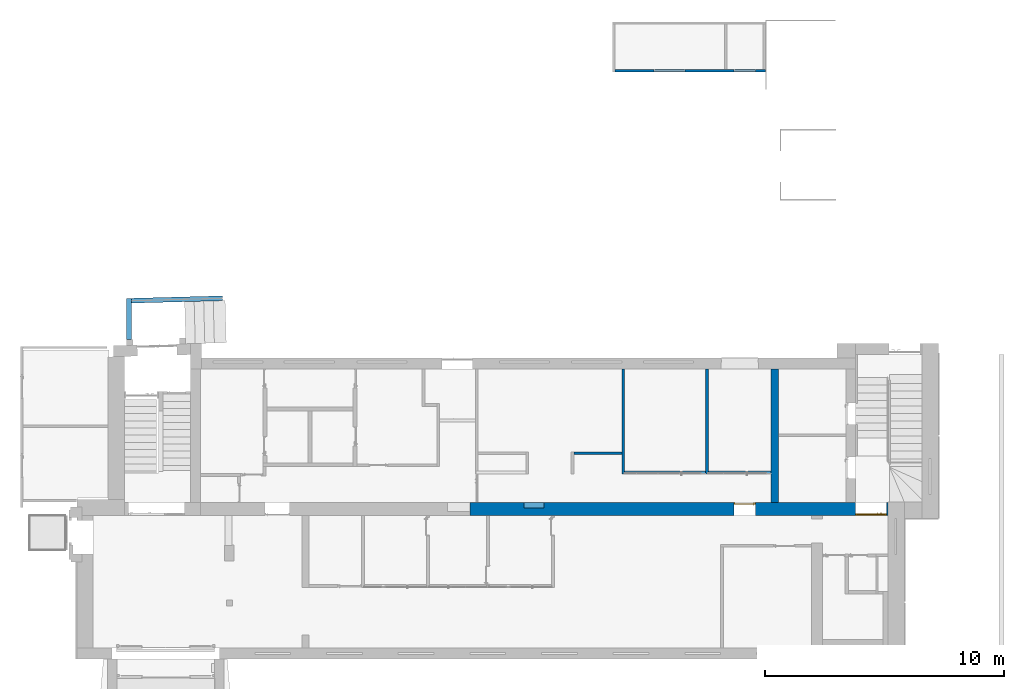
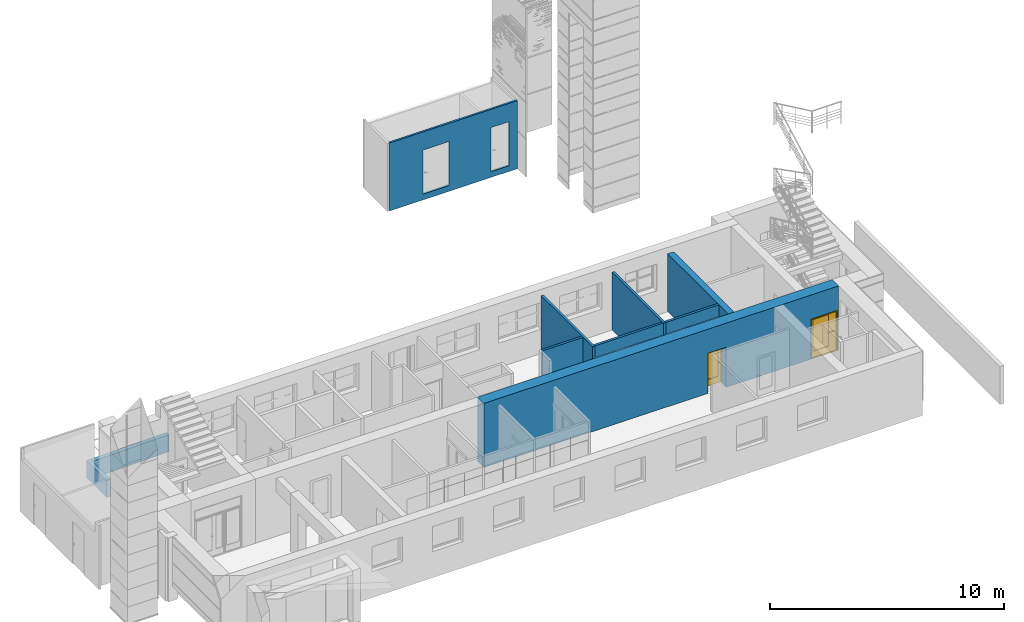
# One storey, part 26 of 49: 10 walls, 2 doors, 5 openings.
"""IFC2X3 building model written with IfcOpenShell, lengths in millimetres."""

from ifc_helpers import new_model, entity, si_unit, converted_unit, derived_unit, direction, frame, frame_2d, origin, place, context, subcontext, project, spatial, polyline, rectangle, outline, extrude, faceted_brep, source, transform, mapped, material, material_list, layer, layer_set, layer_usage, type_object, type_shapes, element, fill, save


model = new_model("IFC2X3")

# Units and contexts
model_context = context("Model", 3, precision=0.01, world=origin(), true_north=direction((6.12303176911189e-17, 1.0)))
body_context = subcontext(model_context, "Body", "Model", "MODEL_VIEW")
ifc_project = project(units=[si_unit("LENGTHUNIT", "METRE", prefix="MILLI"), si_unit("AREAUNIT", "SQUARE_METRE"), si_unit("VOLUMEUNIT", "CUBIC_METRE"), converted_unit("PLANEANGLEUNIT", "DEGREE", entity("IfcRatioMeasure", 0.0174532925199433), si_unit("PLANEANGLEUNIT", "RADIAN"), dimensions=[0, 0, 0, 0, 0, 0, 0]), si_unit("MASSUNIT", "GRAM", prefix="KILO"), derived_unit("MASSDENSITYUNIT", [(si_unit("MASSUNIT", "GRAM", prefix="KILO"), 1), (si_unit("LENGTHUNIT", "METRE"), -3)]), si_unit("TIMEUNIT", "SECOND"), si_unit("FREQUENCYUNIT", "HERTZ"), si_unit("THERMODYNAMICTEMPERATUREUNIT", "DEGREE_CELSIUS"), derived_unit("THERMALTRANSMITTANCEUNIT", [(si_unit("MASSUNIT", "GRAM", prefix="KILO"), 1), (si_unit("THERMODYNAMICTEMPERATUREUNIT", "KELVIN"), -1), (si_unit("TIMEUNIT", "SECOND"), -3)]), derived_unit("VOLUMETRICFLOWRATEUNIT", [(si_unit("LENGTHUNIT", "METRE"), 3), (si_unit("TIMEUNIT", "SECOND"), -1)]), si_unit("ELECTRICCURRENTUNIT", "AMPERE"), si_unit("ELECTRICVOLTAGEUNIT", "VOLT"), si_unit("POWERUNIT", "WATT"), si_unit("FORCEUNIT", "NEWTON", prefix="KILO"), si_unit("ILLUMINANCEUNIT", "LUX"), si_unit("LUMINOUSFLUXUNIT", "LUMEN"), si_unit("LUMINOUSINTENSITYUNIT", "CANDELA"), derived_unit("USERDEFINED", [(si_unit("MASSUNIT", "GRAM", prefix="KILO"), -1), (si_unit("LENGTHUNIT", "METRE"), -2), (si_unit("TIMEUNIT", "SECOND"), 3), (si_unit("LUMINOUSFLUXUNIT", "LUMEN"), 1)]), derived_unit("LINEARVELOCITYUNIT", [(si_unit("LENGTHUNIT", "METRE"), 1), (si_unit("TIMEUNIT", "SECOND"), -1)]), si_unit("PRESSUREUNIT", "PASCAL"), derived_unit("USERDEFINED", [(si_unit("LENGTHUNIT", "METRE"), -2), (si_unit("MASSUNIT", "GRAM", prefix="KILO"), 1), (si_unit("TIMEUNIT", "SECOND"), -2)])], contexts=[model_context])

# Site, building, storey
site_placement = place(None, frame((-151.875543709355, 2715.0, 0.0)))
site = spatial("IfcSite", under=ifc_project, at=site_placement, Name="Surface", CompositionType="ELEMENT")
building_placement = place(site_placement, origin())
building = spatial("IfcBuilding", under=site, at=building_placement, CompositionType="ELEMENT")
storey_placement = place(building_placement, origin())
storey = spatial("IfcBuildingStorey", under=building, at=storey_placement, Name="1 korrus", CompositionType="ELEMENT", Elevation=3.0969999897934e-10)

# Wall, openings, doors
ifc_material_1 = material(Name="__Kips GN13_tava")
ifc_layer_1 = layer(ifc_material_1, 20.0)
ifc_material_2 = material(Name="Masonry - Brick")
ifc_layer_2 = layer(ifc_material_2, 510.0)
ifc_layer_3 = layer(ifc_material_1, 20.0)
ifc_layer_set_1 = layer_set([ifc_layer_1, ifc_layer_2, ifc_layer_3], Name="Basic Wall:SS-1")
ifc_layer_usage_1 = layer_usage(ifc_layer_set_1, "AXIS2", "POSITIVE", -275.0)
wall_type_1 = type_object("IfcWallType", Name="Basic Wall:SS-1", PredefinedType="STANDARD", material=ifc_layer_set_1)
wall_1_placement = place(storey_placement, frame((16230.77154162, 6285.0, 0.0)))
wall_1 = element("IfcWallStandardCase", 1, at=wall_1_placement, inside=storey, type_object=wall_type_1, material=ifc_layer_usage_1, Name="SEIN - 002", ObjectType="Basic Wall:SS-1", context=body_context, shape_type="SweptSolid", body=[
    extrude(rectangle(XDim=17510.84472658, YDim=550.000000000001, at=frame_2d((8755.42236329, 0.0), x_axis=(-1.0, 0.0))), origin(), (0.0, 0.0, 1.0), 3350.0),
])
opening_1_placement = place(wall_1_placement, origin())
element("IfcOpeningElement", 2, at=opening_1_placement, cuts=wall_1, Name="SEIN - 002", ObjectType="Opening", context=body_context, shape_type="SweptSolid", body=[
    extrude(rectangle(XDim=2467.39355468, YDim=845.432757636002, at=frame_2d((-1.13686837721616e-13, 0.0), x_axis=(1.0, 0.0))), frame((2682.935476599, 36.3462829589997, 1523.69677734), z_axis=(0.0, 1.0, 0.0), x_axis=(0.0, 0.0, 1.0)), (0.0, 0.0, 1.0), 788.653717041),
])
opening_2_placement = place(wall_1_placement, frame((11957.9308578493, 275.0, 0.0)))
opening_2 = element("IfcOpeningElement", 3, at=opening_2_placement, cuts=wall_1, Name="Ühepoolsed:SU-02.:1", ObjectType="Opening", context=body_context, shape_type="SweptSolid", body=[
    extrude(rectangle(XDim=2099.99999999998, YDim=900.0, at=frame_2d((1049.99999999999, 450.0), x_axis=(1.0, 0.0))), frame((0.0, 0.0, 0.0), z_axis=(0.0, -1.0, 0.0), x_axis=(0.0, 0.0, 1.0)), (0.0, 0.0, 1.0), 550.0),
])
opening_3_placement = place(wall_1_placement, frame((16141.84472658, -275.0, 0.0)))
opening_3 = element("IfcOpeningElement", 4, at=opening_3_placement, cuts=wall_1, Name="Kahepoolsed:SU-11:1", ObjectType="Opening", context=body_context, shape_type="SweptSolid", body=[
    extrude(rectangle(XDim=2099.99999999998, YDim=1300.0, at=frame_2d((1049.99999999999, 650.0), x_axis=(1.0, 0.0))), frame((0.0, 0.0, 0.0), z_axis=(0.0, 1.0, 0.0), x_axis=(0.0, 0.0, 1.0)), (0.0, 0.0, 1.0), 550.0),
])
ifc_material_3 = material(Name="_Alumiiniumprofiil - must")
ifc_material_4 = material(Name="__Uks_hele tamm")
ifc_material_5 = material(Name="EP Tavallinen lasi")
ifc_material_list_1 = material_list([ifc_material_3, ifc_material_4, ifc_material_5])
ifc_material_list_2 = material_list([ifc_material_3, ifc_material_4, ifc_material_5])
door_style_1 = type_object("IfcDoorStyle", Name="SU-11", ConstructionType="NOTDEFINED", OperationType="FOLDING_TO_RIGHT", ParameterTakesPrecedence=False, Sizeable=False, material=ifc_material_list_2)
shared_shape_1 = source(origin(), body_context, "Body", "Brep", [
    faceted_brep([(912.5, 0.0, 1100.0), (817.5, 0.0, 1100.0), (817.5, -5.0, 1100.0), (937.5, -5.0, 1100.0), (937.5, 38.0, 1100.0), (912.5, 38.0, 1100.0), (912.5, 0.0, 1075.0), (912.5, 38.0, 1075.0), (937.5, 38.0, 1075.0), (937.5, -5.0, 1075.0), (817.5, -5.0, 1075.0), (817.5, 0.0, 1075.0)], [[[0, 1, 2, 3, 4, 5]], [[6, 7, 8, 9, 10, 11]], [[5, 7, 6, 0]], [[4, 8, 7, 5]], [[3, 9, 8, 4]], [[2, 10, 9, 3]], [[1, 11, 10, 2]], [[0, 6, 11, 1]]]),
    faceted_brep([(900.0, 38.0, 1125.0), (950.0, 38.0, 1125.0), (950.0, 40.0, 1125.0), (900.0, 40.0, 1125.0), (900.0, 38.0, 1005.0), (900.0, 40.0, 1005.0), (950.0, 40.0, 1005.0), (950.0, 38.0, 1005.0)], [[[0, 1, 2, 3]], [[4, 5, 6, 7]], [[3, 5, 4, 0]], [[2, 6, 5, 3]], [[1, 7, 6, 2]], [[0, 4, 7, 1]]]),
    faceted_brep([(912.499999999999, 130.0, 1100.0), (912.499999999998, 92.0, 1100.0), (937.499999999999, 92.0, 1100.0), (937.499999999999, 135.0, 1100.0), (817.499999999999, 135.0, 1100.0), (817.499999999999, 130.0, 1100.0), (912.499999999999, 130.0, 1075.0), (817.499999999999, 130.0, 1075.0), (817.499999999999, 135.0, 1075.0), (937.499999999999, 135.0, 1075.0), (937.499999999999, 92.0, 1075.0), (912.499999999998, 92.0, 1075.0)], [[[0, 1, 2, 3, 4, 5]], [[6, 7, 8, 9, 10, 11]], [[1, 0, 6, 11]], [[2, 1, 11, 10]], [[3, 2, 10, 9]], [[4, 3, 9, 8]], [[5, 4, 8, 7]], [[0, 5, 7, 6]]]),
    faceted_brep([(900.0, 92.0, 1125.0), (900.0, 90.0, 1125.0), (950.0, 90.0, 1125.0), (950.0, 92.0, 1125.0), (900.0, 92.0, 1005.0), (950.0, 92.0, 1005.0), (950.0, 90.0, 1005.0), (900.0, 90.0, 1005.0)], [[[0, 1, 2, 3]], [[4, 5, 6, 7]], [[1, 0, 4, 7]], [[2, 1, 7, 6]], [[3, 2, 6, 5]], [[0, 3, 5, 4]]]),
    faceted_brep([(1087.5, 0.0, 1100.0), (1087.5, 38.0, 1100.0), (1062.5, 38.0, 1100.0), (1062.5, -5.0, 1100.0), (1182.5, -5.0, 1100.0), (1182.5, 0.0, 1100.0), (1087.5, 0.0, 1075.0), (1182.5, 0.0, 1075.0), (1182.5, -5.0, 1075.0), (1062.5, -5.0, 1075.0), (1062.5, 38.0, 1075.0), (1087.5, 38.0, 1075.0)], [[[0, 1, 2, 3, 4, 5]], [[6, 7, 8, 9, 10, 11]], [[1, 0, 6, 11]], [[2, 1, 11, 10]], [[3, 2, 10, 9]], [[4, 3, 9, 8]], [[5, 4, 8, 7]], [[0, 5, 7, 6]]]),
    faceted_brep([(1100.0, 38.0, 1125.0), (1100.0, 40.0, 1125.0), (1050.0, 40.0, 1125.0), (1050.0, 38.0, 1125.0), (1100.0, 38.0, 1005.0), (1050.0, 38.0, 1005.0), (1050.0, 40.0, 1005.0), (1100.0, 40.0, 1005.0)], [[[0, 1, 2, 3]], [[4, 5, 6, 7]], [[1, 0, 4, 7]], [[2, 1, 7, 6]], [[3, 2, 6, 5]], [[0, 3, 5, 4]]]),
    faceted_brep([(1087.5, 130.0, 1100.0), (1182.5, 130.0, 1100.0), (1182.5, 135.0, 1100.0), (1062.5, 135.0, 1100.0), (1062.5, 92.0, 1100.0), (1087.5, 92.0, 1100.0), (1087.5, 130.0, 1075.0), (1087.5, 92.0, 1075.0), (1062.5, 92.0, 1075.0), (1062.5, 135.0, 1075.0), (1182.5, 135.0, 1075.0), (1182.5, 130.0, 1075.0)], [[[0, 1, 2, 3, 4, 5]], [[6, 7, 8, 9, 10, 11]], [[5, 7, 6, 0]], [[4, 8, 7, 5]], [[3, 9, 8, 4]], [[2, 10, 9, 3]], [[1, 11, 10, 2]], [[0, 6, 11, 1]]]),
    faceted_brep([(1100.0, 92.0, 1125.0), (1050.0, 92.0, 1125.0), (1050.0, 90.0, 1125.0), (1100.0, 90.0, 1125.0), (1100.0, 92.0, 1005.0), (1100.0, 90.0, 1005.0), (1050.0, 90.0, 1005.0), (1050.0, 92.0, 1005.0)], [[[0, 1, 2, 3]], [[4, 5, 6, 7]], [[3, 5, 4, 0]], [[2, 6, 5, 3]], [[1, 7, 6, 2]], [[0, 4, 7, 1]]]),
    faceted_brep([(1260.0, 0.0, 30.0), (1260.0, 0.0, 0.0), (1260.0, 40.0, 0.0), (1260.0, 40.0, 20.0), (1260.0, 40.0, 30.0), (40.0, 0.0, 30.0), (40.0, 40.0, 30.0), (40.0, 40.0, 20.0), (40.0, 40.0, 0.0), (40.0, 0.0, 0.0), (25.0, 40.0, 0.0), (25.0, 90.0, 0.0), (1275.0, 90.0, 0.0), (1275.0, 40.0, 0.0), (1275.0, 90.0, 20.0), (1275.0, 40.0, 20.0), (25.0, 90.0, 20.0), (25.0, 40.0, 20.0)], [[[0, 1, 2, 3, 4]], [[5, 6, 7, 8, 9]], [[1, 0, 5, 9]], [[2, 1, 9, 8, 10, 11, 12, 13]], [[6, 4, 3, 7]], [[0, 4, 6, 5]], [[14, 15, 13, 12]], [[16, 11, 10, 17]], [[15, 14, 16, 17, 7, 3]], [[13, 15, 3, 2]], [[14, 12, 11, 16]], [[17, 10, 8, 7]]]),
    faceted_brep([(1300.0, 0.0, 0.0), (1260.0, 0.0, 0.0), (1260.0, 40.0, 0.0), (1275.0, 40.0, 0.0), (1275.0, 90.0, 0.0), (1300.0, 90.0, 0.0), (1300.0, 0.0, 2100.0), (0.0, 0.0, 2100.0), (0.0, 0.0, 0.0), (40.0, 0.0, 0.0), (40.0, 0.0, 2060.0), (1260.0, 0.0, 2060.0), (1260.0, 40.0, 2060.0), (40.0, 40.0, 2060.0), (40.0, 40.0, 0.0), (25.0, 40.0, 0.0), (25.0, 40.0, 2075.0), (1275.0, 40.0, 2075.0), (1275.0, 90.0, 2075.0), (25.0, 90.0, 2075.0), (25.0, 90.0, 0.0), (0.0, 90.0, 0.0), (0.0, 90.0, 2100.0), (1300.0, 90.0, 2100.0)], [[[0, 1, 2, 3, 4, 5]], [[1, 0, 6, 7, 8, 9, 10, 11]], [[2, 1, 11, 12]], [[3, 2, 12, 13, 14, 15, 16, 17]], [[4, 3, 17, 18]], [[5, 4, 18, 19, 20, 21, 22, 23]], [[0, 5, 23, 6]], [[8, 7, 22, 21]], [[9, 8, 21, 20, 15, 14]], [[10, 9, 14, 13]], [[16, 15, 20, 19]], [[11, 10, 13, 12]], [[17, 16, 19, 18]], [[7, 6, 23, 22]]]),
    faceted_brep([(1149.0, 90.0, 2000.0), (1149.0, 40.0, 2000.0), (1149.0, 40.0, 1990.0), (1149.0, 90.0, 1990.0), (1150.0, 40.0, 1990.0), (1150.0, 90.0, 1990.0), (1150.0, 40.0, 2000.0), (1150.0, 90.0, 2000.0), (1275.0, 40.0, 2075.0), (1000.0, 40.0, 2075.0), (1000.0, 40.0, 20.0), (1275.0, 40.0, 20.0), (1275.0, 90.0, 2075.0), (1275.0, 90.0, 20.0), (1000.0, 90.0, 20.0), (1000.0, 90.0, 2075.0)], [[[0, 1, 2, 3]], [[3, 2, 4, 5]], [[5, 4, 6, 7]], [[1, 0, 7, 6]], [[2, 1, 6, 4], [8, 9, 10, 11]], [[0, 3, 5, 7], [12, 13, 14, 15]], [[9, 8, 12, 15]], [[10, 9, 15, 14]], [[11, 10, 14, 13]], [[8, 11, 13, 12]]], outer=[[True], [True], [True], [True], [False, True], [False, True], [True], [True], [True], [True]]),
    faceted_brep([(125.0, 55.0, 350.0), (900.0, 55.0, 350.0), (900.0, 55.0, 2000.0), (125.0, 55.0, 2000.0), (125.0, 75.0, 350.0), (125.0, 75.0, 2000.0), (900.0, 75.0, 2000.0), (900.0, 75.0, 350.0)], [[[0, 1, 2, 3]], [[4, 5, 6, 7]], [[1, 0, 4, 7]], [[2, 1, 7, 6]], [[3, 2, 6, 5]], [[0, 3, 5, 4]]]),
    faceted_brep([(1000.0, 40.0, 2075.0), (25.0, 40.0, 2075.0), (25.0, 40.0, 20.0), (1000.0, 40.0, 20.0), (125.0, 40.0, 350.0), (125.0, 40.0, 2000.0), (900.0, 40.0, 2000.0), (900.0, 40.0, 350.0), (1000.0, 90.0, 2075.0), (1000.0, 90.0, 20.0), (25.0, 90.0, 20.0), (25.0, 90.0, 2075.0), (125.0, 90.0, 2000.0), (125.0, 90.0, 350.0), (900.0, 90.0, 350.0), (900.0, 90.0, 2000.0)], [[[0, 1, 2, 3], [4, 5, 6, 7]], [[8, 9, 10, 11], [12, 13, 14, 15]], [[1, 0, 8, 11]], [[2, 1, 11, 10]], [[3, 2, 10, 9]], [[0, 3, 9, 8]], [[12, 5, 4, 13]], [[13, 4, 7, 14]], [[14, 7, 6, 15]], [[5, 12, 15, 6]]]),
])
type_shapes(door_style_1, [shared_shape_1])
door_1_placement = place(opening_3_placement, origin())
door_1 = element("IfcDoor", 5, at=door_1_placement, inside=storey, type_object=door_style_1, material=ifc_material_list_1, Name="Kahepoolsed:SU-11", ObjectType="SU-11", OverallHeight=2099.99999999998, OverallWidth=1300.0, context=body_context, shape_type="MappedRepresentation", body=[
    mapped(shared_shape_1, transform((0.0, 0.0, 0.0), scale=1.0)),
])
fill(opening_3, door_1)
ifc_material_6 = material(Name="Glass")
ifc_material_list_3 = material_list([ifc_material_3, ifc_material_4, ifc_material_6])
ifc_material_list_4 = material_list([ifc_material_3, ifc_material_4, ifc_material_6])
door_style_2 = type_object("IfcDoorStyle", Name="SU-02.", ConstructionType="NOTDEFINED", OperationType="FOLDING_TO_LEFT", ParameterTakesPrecedence=False, Sizeable=False, material=ifc_material_list_4)
shared_shape_2 = source(origin(), body_context, "Body", "Brep", [
    faceted_brep([(100.0, 0.0, 1112.5), (100.0, 38.0, 1112.5), (75.0, 38.0, 1112.5), (75.0, -5.0, 1112.5), (195.0, -5.0, 1112.5), (195.0, 0.0, 1112.5), (100.0, 0.0, 1087.5), (195.0, 0.0, 1087.5), (195.0, -5.0, 1087.5), (75.0, -5.0, 1087.5), (75.0, 38.0, 1087.5), (100.0, 38.0, 1087.5)], [[[0, 1, 2, 3, 4, 5]], [[6, 7, 8, 9, 10, 11]], [[1, 0, 6, 11]], [[2, 1, 11, 10]], [[3, 2, 10, 9]], [[4, 3, 9, 8]], [[5, 4, 8, 7]], [[0, 5, 7, 6]]]),
    faceted_brep([(112.500000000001, 38.0, 1137.5), (112.500000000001, 40.0, 1137.5), (62.5000000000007, 40.0, 1137.5), (62.5000000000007, 38.0, 1137.5), (112.500000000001, 38.0, 1017.5), (62.5000000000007, 38.0, 1017.5), (62.5000000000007, 40.0, 1017.5), (112.500000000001, 40.0, 1017.5)], [[[0, 1, 2, 3]], [[4, 5, 6, 7]], [[1, 0, 4, 7]], [[2, 1, 7, 6]], [[3, 2, 6, 5]], [[0, 3, 5, 4]]]),
    faceted_brep([(100.0, 130.0, 1112.5), (195.0, 130.0, 1112.5), (195.0, 135.0, 1112.5), (75.0, 135.0, 1112.5), (75.0, 92.0, 1112.5), (100.0, 92.0, 1112.5), (100.0, 130.0, 1087.5), (100.0, 92.0, 1087.5), (75.0, 92.0, 1087.5), (75.0, 135.0, 1087.5), (195.0, 135.0, 1087.5), (195.0, 130.0, 1087.5)], [[[0, 1, 2, 3, 4, 5]], [[6, 7, 8, 9, 10, 11]], [[5, 7, 6, 0]], [[4, 8, 7, 5]], [[3, 9, 8, 4]], [[2, 10, 9, 3]], [[1, 11, 10, 2]], [[0, 6, 11, 1]]]),
    faceted_brep([(112.500000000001, 92.0, 1137.5), (62.5000000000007, 92.0, 1137.5), (62.5000000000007, 90.0, 1137.5), (112.500000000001, 90.0, 1137.5), (112.500000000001, 92.0, 1017.5), (112.500000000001, 90.0, 1017.5), (62.5000000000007, 90.0, 1017.5), (62.5000000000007, 92.0, 1017.5)], [[[0, 1, 2, 3]], [[4, 5, 6, 7]], [[3, 5, 4, 0]], [[2, 6, 5, 3]], [[1, 7, 6, 2]], [[0, 4, 7, 1]]]),
    faceted_brep([(900.0, 0.0, 0.0), (860.0, 0.0, 0.0), (860.0, 40.0, 0.0), (875.0, 40.0, 0.0), (875.0, 90.0, 0.0), (900.0, 90.0, 0.0), (900.0, 0.0, 2100.0), (0.0, 0.0, 2100.0), (0.0, 0.0, 0.0), (40.0, 0.0, 0.0), (40.0, 0.0, 2060.0), (860.0, 0.0, 2060.0), (860.0, 40.0, 2060.0), (40.0, 40.0, 2060.0), (40.0, 40.0, 0.0), (25.0, 40.0, 0.0), (25.0, 40.0, 2075.0), (875.0, 40.0, 2075.0), (875.0, 90.0, 2075.0), (25.0, 90.0, 2075.0), (25.0, 90.0, 0.0), (0.0, 90.0, 0.0), (0.0, 90.0, 2100.0), (900.0, 90.0, 2100.0)], [[[0, 1, 2, 3, 4, 5]], [[1, 0, 6, 7, 8, 9, 10, 11]], [[2, 1, 11, 12]], [[3, 2, 12, 13, 14, 15, 16, 17]], [[4, 3, 17, 18]], [[5, 4, 18, 19, 20, 21, 22, 23]], [[0, 5, 23, 6]], [[8, 7, 22, 21]], [[9, 8, 21, 20, 15, 14]], [[10, 9, 14, 13]], [[16, 15, 20, 19]], [[11, 10, 13, 12]], [[17, 16, 19, 18]], [[7, 6, 23, 22]]]),
    faceted_brep([(760.0, 55.0, 350.0), (760.0, 55.0, 1960.0), (140.0, 55.0, 1960.0), (140.0, 55.0, 350.0), (760.0, 75.0, 350.0), (140.0, 75.0, 350.0), (140.0, 75.0, 1960.0), (760.0, 75.0, 1960.0)], [[[0, 1, 2, 3]], [[4, 5, 6, 7]], [[1, 0, 4, 7]], [[2, 1, 7, 6]], [[3, 2, 6, 5]], [[0, 3, 5, 4]]]),
    faceted_brep([(875.0, 40.0, 20.0), (875.0, 40.0, 2075.0), (25.0, 40.0, 2075.0), (25.0, 40.0, 20.0), (140.0, 40.0, 350.0), (140.0, 40.0, 1960.0), (760.0, 40.0, 1960.0), (760.0, 40.0, 350.0), (875.0, 90.0, 20.0), (25.0, 90.0, 20.0), (25.0, 90.0, 2075.0), (875.0, 90.0, 2075.0), (140.0, 90.0, 1960.0), (140.0, 90.0, 350.0), (760.0, 90.0, 350.0), (760.0, 90.0, 1960.0)], [[[0, 1, 2, 3], [4, 5, 6, 7]], [[8, 9, 10, 11], [12, 13, 14, 15]], [[1, 0, 8, 11]], [[2, 1, 11, 10]], [[3, 2, 10, 9]], [[0, 3, 9, 8]], [[12, 5, 4, 13]], [[13, 4, 7, 14]], [[14, 7, 6, 15]], [[5, 12, 15, 6]]]),
])
type_shapes(door_style_2, [shared_shape_2])
door_2_placement = place(opening_2_placement, frame((0.0, 0.0, 0.0), z_axis=(0.0, 0.0, 1.0), x_axis=(-1.0, 0.0, 0.0)))
door_2 = element("IfcDoor", 6, at=door_2_placement, inside=storey, type_object=door_style_2, material=ifc_material_list_3, Name="Ühepoolsed:SU-02.", ObjectType="SU-02.", OverallHeight=2099.99999999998, OverallWidth=899.999999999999, context=body_context, shape_type="MappedRepresentation", body=[
    mapped(shared_shape_2, transform((0.0, 0.0, 0.0), scale=1.0)),
])
fill(opening_2, door_2)

# Walls
ifc_material_7 = material(Name="__Hall krohv")
ifc_layer_4 = layer(ifc_material_7, 10.0)
ifc_material_8 = material(Name="Tellis")
ifc_layer_5 = layer(ifc_material_8, 280.0)
ifc_layer_6 = layer(ifc_material_7, 10.0)
ifc_layer_set_2 = layer_set([ifc_layer_4, ifc_layer_5, ifc_layer_6], Name="Basic Wall:SS-01_ol.olev tellissein300")
ifc_layer_usage_2 = layer_usage(ifc_layer_set_2, "AXIS2", "NEGATIVE", 150.0)
wall_type_2 = type_object("IfcWallType", Name="Basic Wall:SS-01_ol.olev tellissein300", PredefinedType="STANDARD", material=ifc_layer_set_2)
wall_2_placement = place(storey_placement, frame((28996.0994792, 6560.0, 0.0), z_axis=(0.0, 0.0, 1.0), x_axis=(0.0, 1.0, 0.0)))
element("IfcWallStandardCase", 7, at=wall_2_placement, inside=storey, type_object=wall_type_2, material=ifc_layer_usage_2, Name="SEIN - 002", ObjectType="Basic Wall:SS-01_ol.olev tellissein300", context=body_context, shape_type="SweptSolid", body=[
    extrude(rectangle(XDim=5590.0, YDim=300.000000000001, at=frame_2d((2795.0, 0.0), x_axis=(-1.0, 0.0))), origin(), (0.0, 0.0, 1.0), 3020.0),
])
ifc_layer_7 = layer(ifc_material_1, 12.5)
ifc_layer_8 = layer(ifc_material_1, 12.5)
ifc_material_9 = material(Name="__Soojustus EPS")
ifc_layer_9 = layer(ifc_material_9, 66.0)
ifc_layer_10 = layer(ifc_material_1, 12.5)
ifc_layer_11 = layer(ifc_material_1, 12.5)
ifc_layer_set_3 = layer_set([ifc_layer_7, ifc_layer_8, ifc_layer_9, ifc_layer_10, ifc_layer_11], Name="Basic Wall:SS-3_Kipssein tava ruumide vahel")
ifc_layer_usage_3 = layer_usage(ifc_layer_set_3, "AXIS2", "POSITIVE", -58.0)
wall_type_3 = type_object("IfcWallType", Name="Basic Wall:SS-3_Kipssein tava ruumide vahel", PredefinedType="STANDARD", material=ifc_layer_set_3)
wall_3_placement = place(storey_placement, frame((22657.5484515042, 7760.0, 0.0), z_axis=(0.0, 0.0, 1.0), x_axis=(0.0, 1.0, 0.0)))
element("IfcWallStandardCase", 8, at=wall_3_placement, inside=storey, type_object=wall_type_3, material=ifc_layer_usage_3, Name="Basic Wall:SS-3_Kipssein tava ruumide vahel", ObjectType="Basic Wall:SS-3_Kipssein tava ruumide vahel", context=body_context, shape_type="SweptSolid", body=[
    extrude(rectangle(XDim=4390.00000000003, YDim=116.0, at=frame_2d((2195.00000000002, -6.75015598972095e-13), x_axis=(-1.0, 0.0))), origin(), (0.0, 0.0, 1.0), 3020.0),
])
ifc_layer_usage_4 = layer_usage(ifc_layer_set_3, "AXIS2", "NEGATIVE", 58.0)
wall_4_placement = place(storey_placement, frame((22715.5484515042, 7818.0, 2400.0)))
element("IfcWallStandardCase", 9, at=wall_4_placement, inside=storey, type_object=wall_type_3, material=ifc_layer_usage_4, Name="Basic Wall:SS-3_Kipssein tava ruumide vahel", ObjectType="Basic Wall:SS-3_Kipssein tava ruumide vahel", context=body_context, shape_type="SweptSolid", body=[
    extrude(rectangle(XDim=3389.55102769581, YDim=116.0, at=frame_2d((1694.7755138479, -3.90798504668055e-14), x_axis=(-1.0, 0.0))), origin(), (0.0, 0.0, 1.0), 620.0),
])
ifc_layer_usage_5 = layer_usage(ifc_layer_set_3, "AXIS2", "POSITIVE", -58.0)
wall_5_placement = place(storey_placement, frame((26163.0994792, 7760.0, 0.0), z_axis=(0.0, 0.0, 1.0), x_axis=(0.0, 1.0, 0.0)))
element("IfcWallStandardCase", 10, at=wall_5_placement, inside=storey, type_object=wall_type_3, material=ifc_layer_usage_5, Name="Basic Wall:SS-3_Kipssein tava ruumide vahel", ObjectType="Basic Wall:SS-3_Kipssein tava ruumide vahel", context=body_context, shape_type="SweptSolid", body=[
    extrude(rectangle(XDim=4389.99999999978, YDim=116.0, at=frame_2d((2194.99999999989, 0.0), x_axis=(-1.0, 0.0))), origin(), (0.0, 0.0, 1.0), 3020.0),
])
ifc_layer_usage_6 = layer_usage(ifc_layer_set_3, "AXIS2", "NEGATIVE", 58.0)
wall_6_placement = place(storey_placement, frame((26218.2300720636, 7818.0, 2400.0)))
element("IfcWallStandardCase", 11, at=wall_6_placement, inside=storey, type_object=wall_type_3, material=ifc_layer_usage_6, Name="Basic Wall:SS-3_Kipssein tava ruumide vahel", ObjectType="Basic Wall:SS-3_Kipssein tava ruumide vahel", context=body_context, shape_type="SweptSolid", body=[
    extrude(rectangle(XDim=2626.86940713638, YDim=116.0, at=frame_2d((1313.43470356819, 1.35003119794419e-13), x_axis=(-1.0, 0.0))), origin(), (0.0, 0.0, 1.0), 620.0),
])
ifc_layer_usage_7 = layer_usage(ifc_layer_set_3, "AXIS2", "POSITIVE", -58.0)
wall_7_placement = place(storey_placement, frame((22599.5484515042, 8618.0, 0.0), z_axis=(0.0, 0.0, 1.0), x_axis=(-1.0, 0.0, 0.0)))
element("IfcWallStandardCase", 12, at=wall_7_placement, inside=storey, type_object=wall_type_3, material=ifc_layer_usage_7, Name="Basic Wall:SS-3_Kipssein tava ruumide vahel", ObjectType="Basic Wall:SS-3_Kipssein tava ruumide vahel", context=body_context, shape_type="SweptSolid", body=[
    extrude(rectangle(XDim=2005.99999999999, YDim=116.0, at=frame_2d((1002.99999999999, 2.87769807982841e-13), x_axis=(-1.0, 0.0))), origin(), (0.0, 0.0, 1.0), 3020.0),
])
ifc_material_10 = material(Name="Betoon_uus konstr.")
ifc_layer_12 = layer(ifc_material_10, 200.0)
ifc_layer_set_4 = layer_set([ifc_layer_12], Name="Basic Wall:Uus tugimüür 200mm")
ifc_layer_usage_8 = layer_usage(ifc_layer_set_4, "AXIS2", "NEGATIVE", 100.0)
wall_type_4 = type_object("IfcWallType", Name="Basic Wall:Uus tugimüür 200mm", PredefinedType="STANDARD", material=ifc_layer_set_4)
wall_8_placement = place(storey_placement, frame((1964.54956111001, 15107.1223683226, -1000.0), z_axis=(0.0, 0.0, 1.0), x_axis=(0.0, -1.0, 0.0)))
element("IfcWallStandardCase", 13, at=wall_8_placement, inside=storey, type_object=wall_type_4, material=ifc_layer_usage_8, Name="Basic Wall:Uus tugimüür 200mm", ObjectType="Basic Wall:Uus tugimüür 200mm", context=body_context, shape_type="SweptSolid", body=[
    extrude(rectangle(XDim=1726.5269437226, YDim=200.0, at=frame_2d((863.263471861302, 1.4210854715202e-14), x_axis=(-1.0, 0.0))), origin(), (0.0, 0.0, 1.0), 890.0),
])
ifc_layer_usage_9 = layer_usage(ifc_layer_set_4, "AXIS2", "NEGATIVE", 100.0)
wall_9_placement = place(storey_placement, frame((5880.47761591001, 15109.9638978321, -1000.0), z_axis=(0.0, 0.0, 1.0), x_axis=(-0.999638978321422, -0.0268684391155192, 0.0)))
element("IfcWallStandardCase", 14, at=wall_9_placement, inside=storey, type_object=wall_type_4, material=ifc_layer_usage_9, Name="Basic Wall:Uus tugimüür 200mm", ObjectType="Basic Wall:Uus tugimüür 200mm", context=body_context, shape_type="SweptSolid", body=[
    extrude(outline(polyline([(-39.0653858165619, -1526.37122192), (-38.7527999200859, -1526.37122192), (161.006844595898, -1526.37122192), (58.3695684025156, 2292.24367679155), (-141.558227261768, 2286.86998896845), (-39.0653858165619, -1526.37122192)])), frame((2289.84782793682, -19.9375053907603, 0.0), z_axis=(0.0, 0.0, 1.0), x_axis=(0.0268684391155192, 0.999638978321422, 0.0)), (0.0, 0.0, 1.0), 890.0),
])

# Wall, openings
ifc_material_11 = material(Name="External face timepruun h=1100mm")
ifc_layer_13 = layer(ifc_material_11, 1.0)
ifc_material_12 = material(Name="Core Mineral wool Mineral Wool h=1100mm")
ifc_layer_14 = layer(ifc_material_12, 98.0)
ifc_material_13 = material(Name="Internal face RAL 7035 h=1100mm")
ifc_layer_15 = layer(ifc_material_13, 1.0)
ifc_layer_set_5 = layer_set([ifc_layer_13, ifc_layer_14, ifc_layer_15], Name="Basic Wall:VS-3.1_SW kergpaneel 100mm")
ifc_layer_usage_10 = layer_usage(ifc_layer_set_5, "AXIS2", "POSITIVE", -50.00000000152)
wall_type_5 = type_object("IfcWallType", Name="Basic Wall:VS-3.1_SW kergpaneel 100mm", PredefinedType="STANDARD", material=ifc_layer_set_5)
wall_10_placement = place(storey_placement, frame((22301.6162681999, 24635.0376316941, 0.0)))
wall_10 = element("IfcWallStandardCase", 15, at=wall_10_placement, inside=storey, type_object=wall_type_5, material=ifc_layer_usage_10, Name="Basic Wall:VS-3.1_SW kergpaneel 100mm", ObjectType="Basic Wall:VS-3.1_SW kergpaneel 100mm", context=body_context, shape_type="SweptSolid", body=[
    extrude(rectangle(XDim=6300.00000000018, YDim=100.000000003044, at=frame_2d((3150.00000000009, -1.27897692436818e-13), x_axis=(-1.0, 0.0))), origin(), (0.0, 0.0, 1.0), 3550.0),
])
opening_4_placement = place(wall_10_placement, frame((5900.0, 50.0, 300.0)))
element("IfcOpeningElement", 16, at=opening_4_placement, cuts=wall_10, Name="Ühepoolsed:VU-05:1", ObjectType="Opening", context=body_context, shape_type="SweptSolid", body=[
    extrude(rectangle(XDim=2299.99999999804, YDim=900.0, at=frame_2d((1149.99999999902, 450.000000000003), x_axis=(1.0, 0.0))), frame((0.0, 0.0, 0.0), z_axis=(0.0, -1.0, 0.0), x_axis=(0.0, 0.0, 1.0)), (0.0, 0.0, 1.0), 100.00000000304),
])
opening_5_placement = place(wall_10_placement, frame((2949.99927372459, 50.0, 300.0)))
element("IfcOpeningElement", 17, at=opening_5_placement, cuts=wall_10, Name="Ühepoolsed:VU-06:1", ObjectType="Opening", context=body_context, shape_type="SweptSolid", body=[
    extrude(rectangle(XDim=2299.99999999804, YDim=1300.0, at=frame_2d((1149.99999999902, 650.0), x_axis=(1.0, 0.0))), frame((0.0, 0.0, 0.0), z_axis=(0.0, -1.0, 0.0), x_axis=(0.0, 0.0, 1.0)), (0.0, 0.0, 1.0), 100.00000000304),
])

save(model, "model.ifc")
